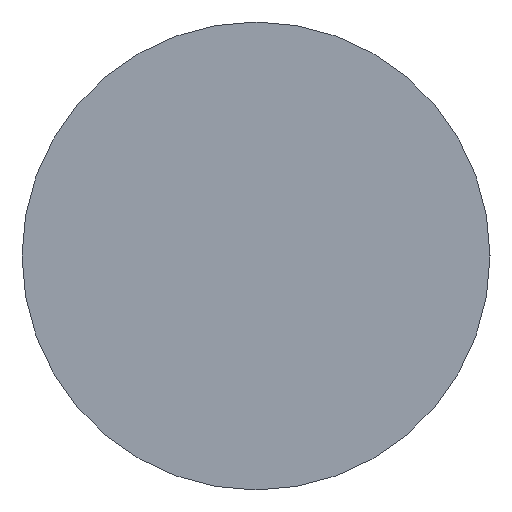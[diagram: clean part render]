
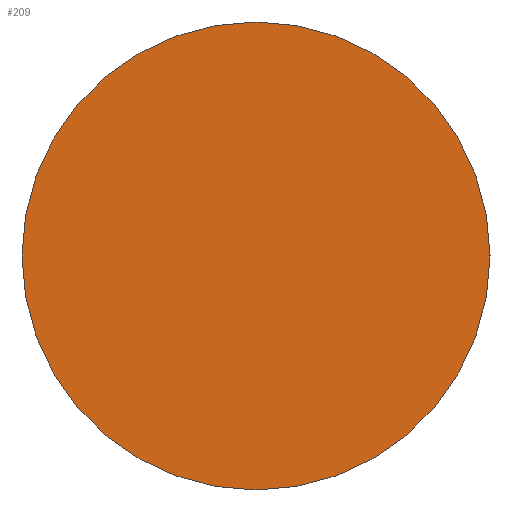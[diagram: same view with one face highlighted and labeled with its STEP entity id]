
A CAD part, left-side view. The second image highlights one B-rep face of the part: STEP entity #209.
In plain terms, the highlighted planar face has unit normal (-1, 0, 0).
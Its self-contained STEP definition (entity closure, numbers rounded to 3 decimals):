
#20 = FACE_OUTER_BOUND ( 'NONE', #212, .T. ) ;
#23 = CARTESIAN_POINT ( 'NONE',  ( 0., 0., 0. ) ) ;
#27 = DIRECTION ( 'NONE',  ( 0., 1., 0. ) ) ;
#28 = AXIS2_PLACEMENT_3D ( 'NONE', #23, #196, #27 ) ;
#32 = CARTESIAN_POINT ( 'NONE',  ( 0., 0., 0. ) ) ;
#42 = VERTEX_POINT ( 'NONE', #97 ) ;
#56 = CARTESIAN_POINT ( 'NONE',  ( 0., 0., 0. ) ) ;
#59 = EDGE_CURVE ( 'NONE', #42, #229, #178, .T. ) ;
#73 = DIRECTION ( 'NONE',  ( -1., 0., 0. ) ) ;
#75 = AXIS2_PLACEMENT_3D ( 'NONE', #32, #94, #268 ) ;
#91 = PLANE ( 'NONE',  #216 ) ;
#94 = DIRECTION ( 'NONE',  ( 1., 0., 0. ) ) ;
#97 = CARTESIAN_POINT ( 'NONE',  ( 0., 12., 0. ) ) ;
#151 = CARTESIAN_POINT ( 'NONE',  ( 0., -12., 0. ) ) ;
#178 = CIRCLE ( 'NONE', #75, 12. ) ;
#179 = EDGE_CURVE ( 'NONE', #229, #42, #225, .T. ) ;
#184 = ORIENTED_EDGE ( 'NONE', *, *, #179, .F. ) ;
#196 = DIRECTION ( 'NONE',  ( 1., 0., 0. ) ) ;
#209 = ADVANCED_FACE ( 'NONE', ( #20 ), #91, .T. ) ;
#212 = EDGE_LOOP ( 'NONE', ( #249, #184 ) ) ;
#216 = AXIS2_PLACEMENT_3D ( 'NONE', #56, #73, #232 ) ;
#225 = CIRCLE ( 'NONE', #28, 12. ) ;
#229 = VERTEX_POINT ( 'NONE', #151 ) ;
#232 = DIRECTION ( 'NONE',  ( 0., -1., 0. ) ) ;
#249 = ORIENTED_EDGE ( 'NONE', *, *, #59, .F. ) ;
#268 = DIRECTION ( 'NONE',  ( 0., 1., 0. ) ) ;
